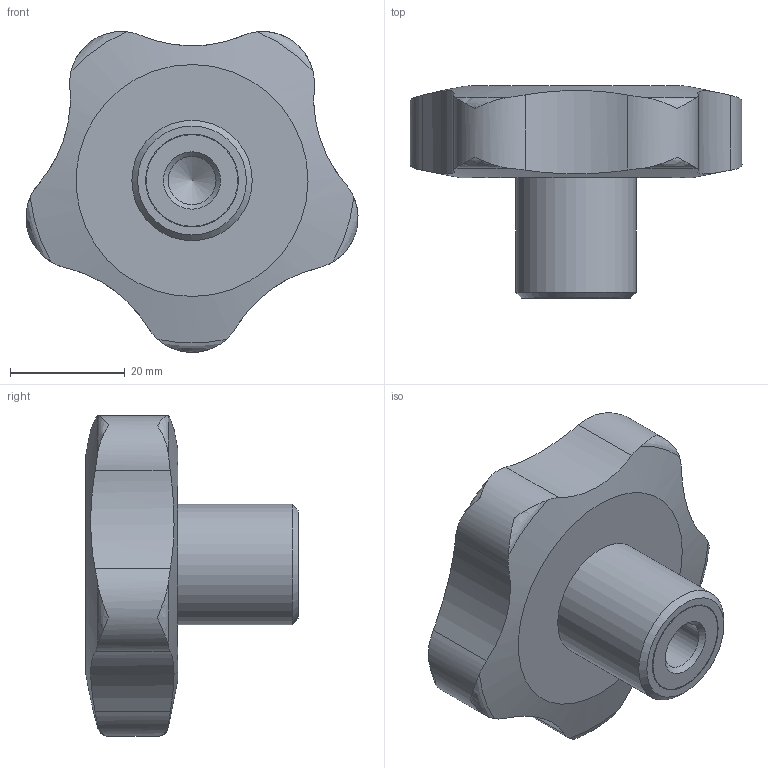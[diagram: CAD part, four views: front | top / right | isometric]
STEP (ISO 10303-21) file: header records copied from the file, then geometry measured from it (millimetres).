
FILE_DESCRIPTION( ( 'STEP AP203' ), '1' );
FILE_NAME( 'C:/Temp/Ganter_Step_05_03_2020/data/2_2/gn_5337_4/gn_5337_4_b/Star knob GN 5337.4-60-M10.stp', '2020-03-05T12:09:34', ( 'License CC BY-ND 4.0' ), ( 'CADENAS' ), ' ', 'PARTsolutions', ' ' );
FILE_SCHEMA( ( 'CONFIG_CONTROL_DESIGN' ) );
Length unit declared in the file: millimetre
Products named in the file (1): _Star knob GN 5337.4-60-M10
Bounding box: 57.94 x 37 x 55.99 mm (x, y, z)
Volume: 39083 mm3; surface area: 8868.6 mm2
Topology: 1 solids, 1 shells, 34 faces, 92 edges, 62 vertices
Faces by surface type: cylinder 14, torus 10, cone 4, plane 4, bspline 1, sphere 1
Full cylindrical faces by diameter (mm): 8.376 x1, 16 x1, 16.2 x1, 21 x1
Entity records: 1497 total; most frequent: CARTESIAN_POINT 731, ORIENTED_EDGE 154, DIRECTION 122, EDGE_CURVE 77, VERTEX_POINT 59, AXIS2_PLACEMENT_3D 56, EDGE_LOOP 46, B_SPLINE_CURVE_WITH_KNOTS 45
